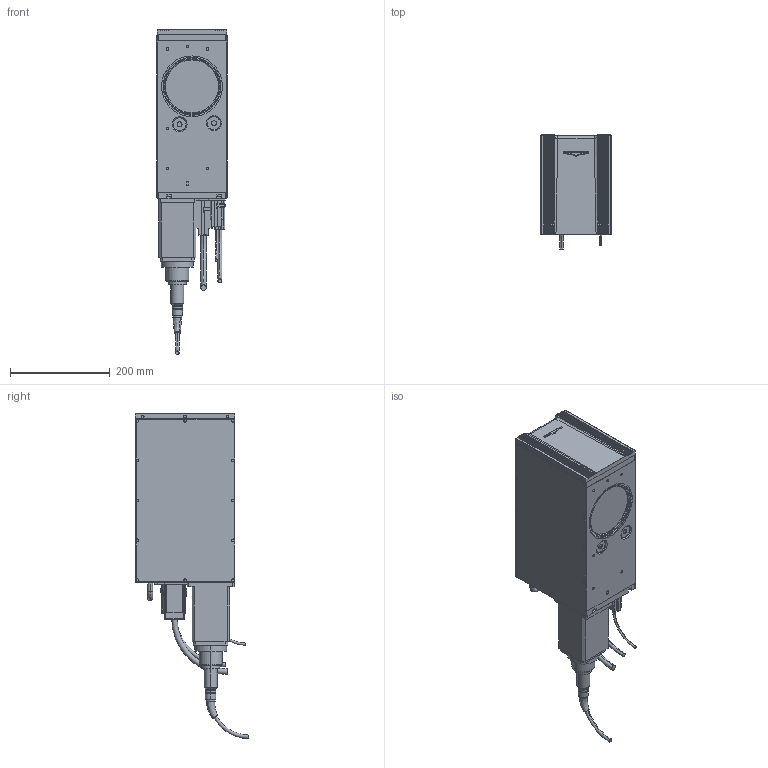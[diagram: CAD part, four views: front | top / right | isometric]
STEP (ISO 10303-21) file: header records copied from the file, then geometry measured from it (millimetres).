
FILE_DESCRIPTION (( 'STEP AP203' ), '1' );
FILE_NAME ('lp-zv20xph_zv50xph.STEP', '2023-06-06T01:19:42', ( '' ), ( '' ), 'SwSTEP 2.0', 'SolidWorks 2022', '' );
FILE_SCHEMA (( 'CONFIG_CONTROL_DESIGN' ));
Length unit declared in the file: millimetre
Products named in the file (1): lp-zv20xph_zv50xph
Bounding box: 144 x 228 x 652 mm (x, y, z)
Volume: 10550261.6 mm3; surface area: 391658.8 mm2
Topology: 1 solids, 1 shells, 1177 faces, 2787 edges, 1625 vertices
Faces by surface type: cylinder 541, plane 366, torus 89, sphere 85, bspline 52, cone 44
Entity records: 35002 total; most frequent: CARTESIAN_POINT 8347, DIRECTION 5829, ORIENTED_EDGE 5462, EDGE_CURVE 2731, AXIS2_PLACEMENT_3D 2261, VERTEX_POINT 1625, LINE 1307, VECTOR 1307
